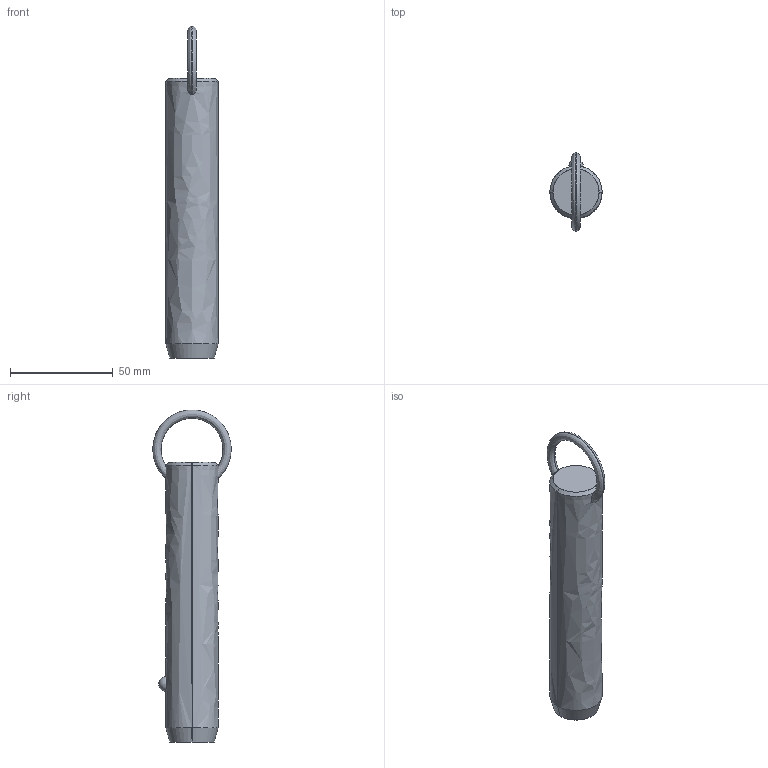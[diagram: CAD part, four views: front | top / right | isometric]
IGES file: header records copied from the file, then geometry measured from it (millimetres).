
Start section: SolidWorks IGES file using analytic representation for surfaces
Global section: file name: C:\Users\liam_\OneDrive\Documents\WORK\Work for WixRoyd\Job Files\J-00019 - Matt Davis CAD Checking\04. CAD Drawings\automotion20190605\P1250.2_v2\P1250.2_v2_20190729_IGES\P1250.100-360.igs; native system: SolidWorks 2017; preprocessor: SolidWorks 2017; author: liam_; date: 190730.173815; units: millimetre
Bounding box: 25.4 x 38.09 x 161.2 mm (x, y, z)
Surface area: 12609.7 mm2 (no closed solid volume)
Topology: 0 solids, 0 shells, 12 faces, 298 edges, 296 vertices
Faces by surface type: revolution 8, bspline 4
